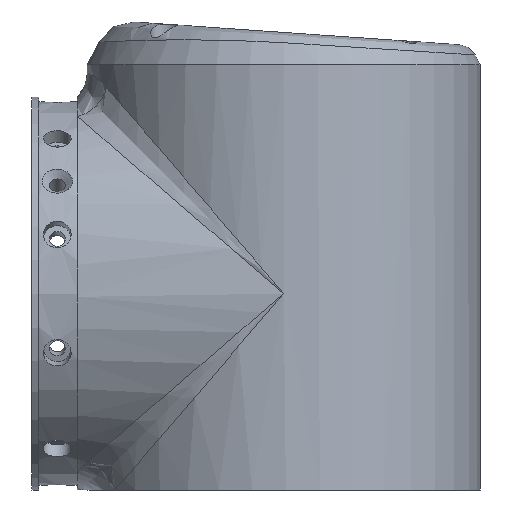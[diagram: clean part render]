
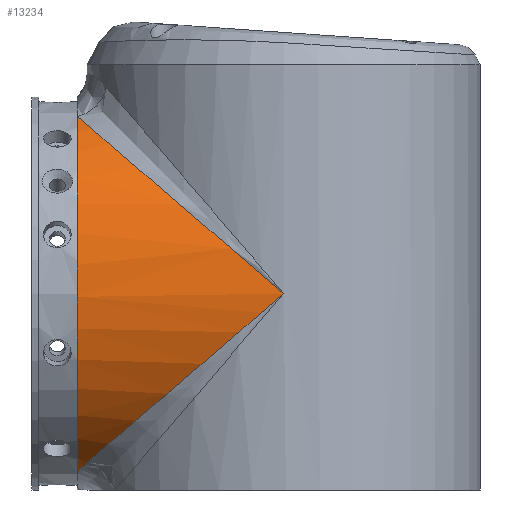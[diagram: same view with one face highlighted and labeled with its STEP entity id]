
A CAD part, left-side view. The second image highlights one B-rep face of the part: STEP entity #13234.
In plain terms, the highlighted cylindrical face has radius 42.5 mm (diameter 85 mm), a partial arc.
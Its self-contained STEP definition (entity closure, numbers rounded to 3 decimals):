
#2591 = DIRECTION ( 'NONE',  ( 0., 1., 0. ) ) ;
#2741 = EDGE_CURVE ( 'NONE', #10071, #4029, #16797, .T. ) ;
#2921 = CARTESIAN_POINT ( 'NONE',  ( -21.788, 42.5, 6.01 ) ) ;
#3187 = CARTESIAN_POINT ( 'NONE',  ( -18.257, 44.7, 80.879 ) ) ;
#3616 = CARTESIAN_POINT ( 'NONE',  ( -42.5, 0., 42.5 ) ) ;
#3761 = CARTESIAN_POINT ( 'NONE',  ( 0., -42.501, 42.5 ) ) ;
#3877 = AXIS2_PLACEMENT_3D ( 'NONE', #10076, #7639, #5973 ) ;
#4029 = VERTEX_POINT ( 'NONE', #3616 ) ;
#4327 = ORIENTED_EDGE ( 'NONE', *, *, #9835, .T. ) ;
#4844 = CARTESIAN_POINT ( 'NONE',  ( -21.788, 42.5, 6.01 ) ) ;
#5127 = CARTESIAN_POINT ( 'NONE',  ( -16.987, 44.7, 3.542 ) ) ;
#5156 = CYLINDRICAL_SURFACE ( 'NONE', #9185, 42.5 ) ;
#5973 = DIRECTION ( 'NONE',  ( 0., 0., 1. ) ) ;
#6018 = CARTESIAN_POINT ( 'NONE',  ( -33.491, 36.26, 73.632 ) ) ;
#6113 = CARTESIAN_POINT ( 'NONE',  ( -42.5, 0., 42.5 ) ) ;
#7639 = DIRECTION ( 'NONE',  ( 0., 1., 0. ) ) ;
#7866 = VERTEX_POINT ( 'NONE', #8766 ) ;
#7891 = CARTESIAN_POINT ( 'NONE',  ( -18.738, 44.235, 4.306 ) ) ;
#8762 = CARTESIAN_POINT ( 'NONE',  ( -42.5, 19.648, 59.37 ) ) ;
#8766 = CARTESIAN_POINT ( 'NONE',  ( -16.987, 44.7, 3.542 ) ) ;
#9185 = AXIS2_PLACEMENT_3D ( 'NONE', #3761, #2591, #12169 ) ;
#9809 = CARTESIAN_POINT ( 'NONE',  ( -18.257, 44.7, 80.879 ) ) ;
#9835 = EDGE_CURVE ( 'NONE', #7866, #10071, #15885, .T. ) ;
#10071 = VERTEX_POINT ( 'NONE', #4844 ) ;
#10076 = CARTESIAN_POINT ( 'NONE',  ( 0., 44.7, 42.5 ) ) ;
#10113 = EDGE_CURVE ( 'NONE', #4029, #16769, #14763, .T. ) ;
#10388 = ORIENTED_EDGE ( 'NONE', *, *, #10113, .T. ) ;
#12169 = DIRECTION ( 'NONE',  ( 0., 0., 1. ) ) ;
#12422 = CARTESIAN_POINT ( 'NONE',  ( -42.5, 17.84, 27.183 ) ) ;
#12639 = CIRCLE ( 'NONE', #3877, 42.5 ) ;
#13234 = ADVANCED_FACE ( 'NONE', ( #17818 ), #5156, .T. ) ;
#14763 =( BOUNDED_CURVE ( )  B_SPLINE_CURVE ( 3, ( #6113, #8762, #6018, #3187 ),
 .UNSPECIFIED., .F., .T. ) 
 B_SPLINE_CURVE_WITH_KNOTS ( ( 4, 4 ),
 ( 4.712, 5.839 ),
 .UNSPECIFIED. ) 
 CURVE ( )  GEOMETRIC_REPRESENTATION_ITEM ( )  RATIONAL_B_SPLINE_CURVE ( ( 1., 0.897, 0.897, 1. ) ) 
 REPRESENTATION_ITEM ( '' )  );
#14808 = EDGE_LOOP ( 'NONE', ( #16068, #4327, #17114, #10388 ) ) ;
#15248 = CARTESIAN_POINT ( 'NONE',  ( -42.5, 0., 42.5 ) ) ;
#15885 = B_SPLINE_CURVE_WITH_KNOTS ( 'NONE', 3,
 ( #5127, #7891, #17695, #17791 ),
 .UNSPECIFIED., .F., .F.,
 ( 4, 4 ),
 ( 0.018, 0.024 ),
 .UNSPECIFIED. ) ;
#16043 = EDGE_CURVE ( 'NONE', #7866, #16769, #12639, .T. ) ;
#16068 = ORIENTED_EDGE ( 'NONE', *, *, #16043, .F. ) ;
#16688 = CARTESIAN_POINT ( 'NONE',  ( -34.939, 33.354, 13.863 ) ) ;
#16769 = VERTEX_POINT ( 'NONE', #9809 ) ;
#16797 =( BOUNDED_CURVE ( )  B_SPLINE_CURVE ( 3, ( #2921, #16688, #12422, #15248 ),
 .UNSPECIFIED., .F., .T. ) 
 B_SPLINE_CURVE_WITH_KNOTS ( ( 4, 4 ),
 ( 0.538, 1.571 ),
 .UNSPECIFIED. ) 
 CURVE ( )  GEOMETRIC_REPRESENTATION_ITEM ( )  RATIONAL_B_SPLINE_CURVE ( ( 1., 0.913, 0.913, 1. ) ) 
 REPRESENTATION_ITEM ( '' )  );
#17114 = ORIENTED_EDGE ( 'NONE', *, *, #2741, .T. ) ;
#17695 = CARTESIAN_POINT ( 'NONE',  ( -20.336, 43.51, 5.143 ) ) ;
#17791 = CARTESIAN_POINT ( 'NONE',  ( -21.788, 42.5, 6.01 ) ) ;
#17818 = FACE_OUTER_BOUND ( 'NONE', #14808, .T. ) ;
